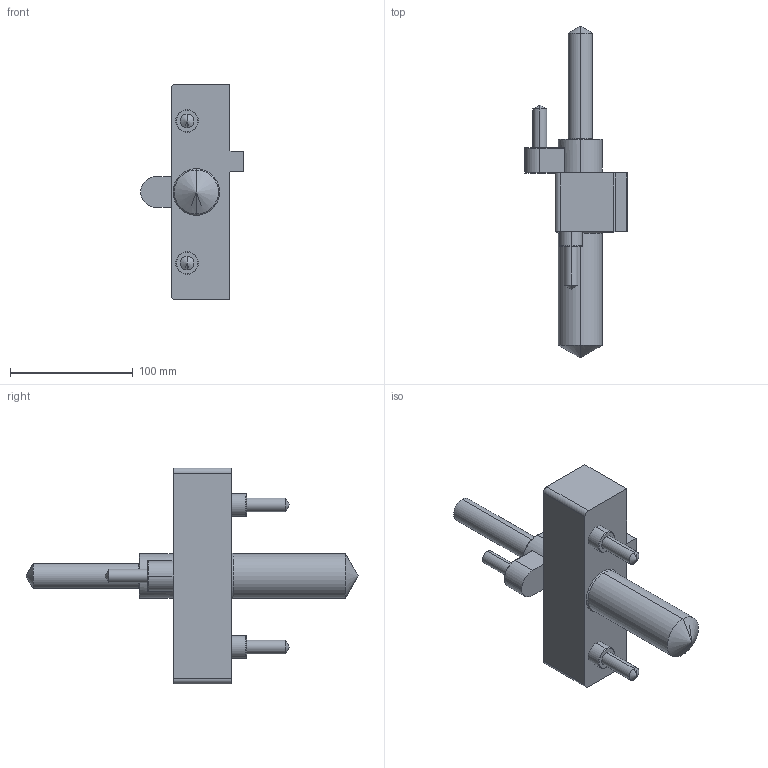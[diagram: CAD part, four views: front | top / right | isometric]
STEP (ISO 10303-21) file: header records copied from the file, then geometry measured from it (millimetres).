
FILE_DESCRIPTION (( 'STEP AP214' ), '1' );
FILE_NAME ('LS30075L_False_cut_LS.STEP', '2024-09-17T10:45:12', ( '' ), ( '' ), 'SwSTEP 2.0', 'SolidWorks 2021', '' );
FILE_SCHEMA (( 'AUTOMOTIVE_DESIGN' ));
Length unit declared in the file: millimetre
Products named in the file (1): LS30075L_False_cut_LS
Bounding box: 84 x 271 x 176 mm (x, y, z)
Volume: 597099.1 mm3; surface area: 65632.8 mm2
Topology: 1 solids, 1 shells, 67 faces, 162 edges, 94 vertices
Faces by surface type: cylinder 24, plane 19, cone 16, torus 8
Entity records: 1923 total; most frequent: DIRECTION 355, CARTESIAN_POINT 328, ORIENTED_EDGE 304, EDGE_CURVE 152, AXIS2_PLACEMENT_3D 137, VERTEX_POINT 94, LINE 81, VECTOR 81
